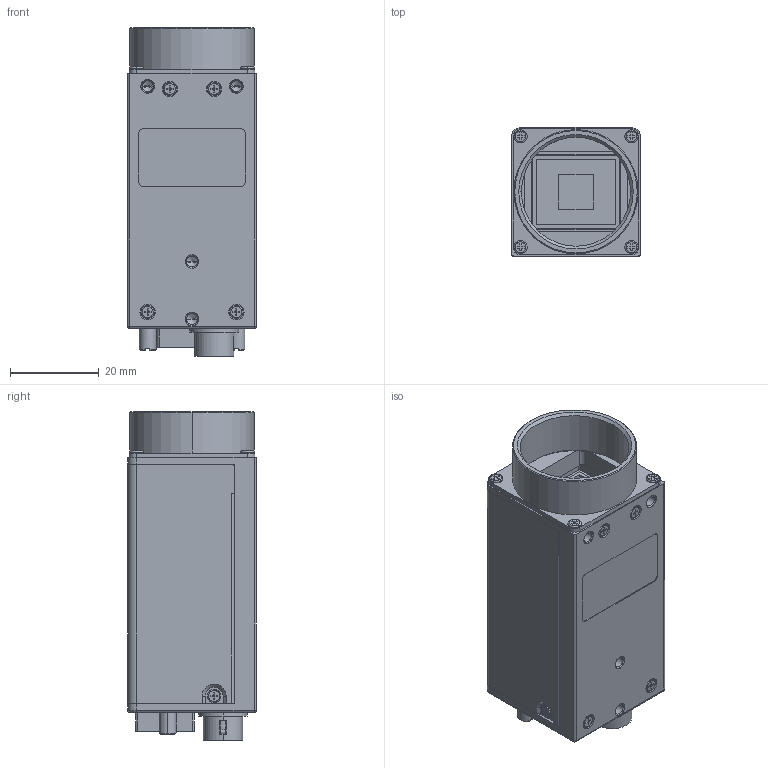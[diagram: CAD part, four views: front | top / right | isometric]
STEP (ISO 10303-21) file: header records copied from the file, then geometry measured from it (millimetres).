
FILE_DESCRIPTION((''),'2;1');
FILE_NAME('GO-8105M-5GE-UV-GL_MOUNT_MOCK_ASM','2022-09-06T11:54:25',('aso'),(''),'CREO PARAMETRIC BY PTC INC, 2019352','CREO PARAMETRIC BY PTC INC, 2019352','');
FILE_SCHEMA(('AUTOMOTIVE_DESIGN { 1 0 10303 214 1 1 1 1 }'));
Length unit declared in the file: millimetre
Products named in the file (4): GO-8105M-5GE-UV-GL_MOCK; 4TH_GEN_C_MOUNT-GL; M1_7X3_SEIMUTSU_2ND; GO-8105M-5GE-UV-GL_MOUNT_MOCK_ASM
Assembly tree (6 placements, depth 2):
  GO-8105M-5GE-UV-GL_MOUNT_MOCK_ASM
    GO-8105M-5GE-UV-GL_MOCK
    4TH_GEN_C_MOUNT-GL
    M1_7X3_SEIMUTSU_2ND  x4
Bounding box: 29 x 29 x 74.15 mm (x, y, z)
Volume: 46180.9 mm3; surface area: 14363.7 mm2
Topology: 6 solids, 15 shells, 721 faces, 1861 edges, 1179 vertices
Faces by surface type: plane 387, cylinder 204, cone 84, torus 26, sphere 18, bspline 2
Entity records: 24838 total; most frequent: CARTESIAN_POINT 3754, DIRECTION 3483, ORIENTED_EDGE 3288, EDGE_CURVE 1661, AXIS2_PLACEMENT_3D 1205, VECTOR 1073, LINE 1073, VERTEX_POINT 1071
